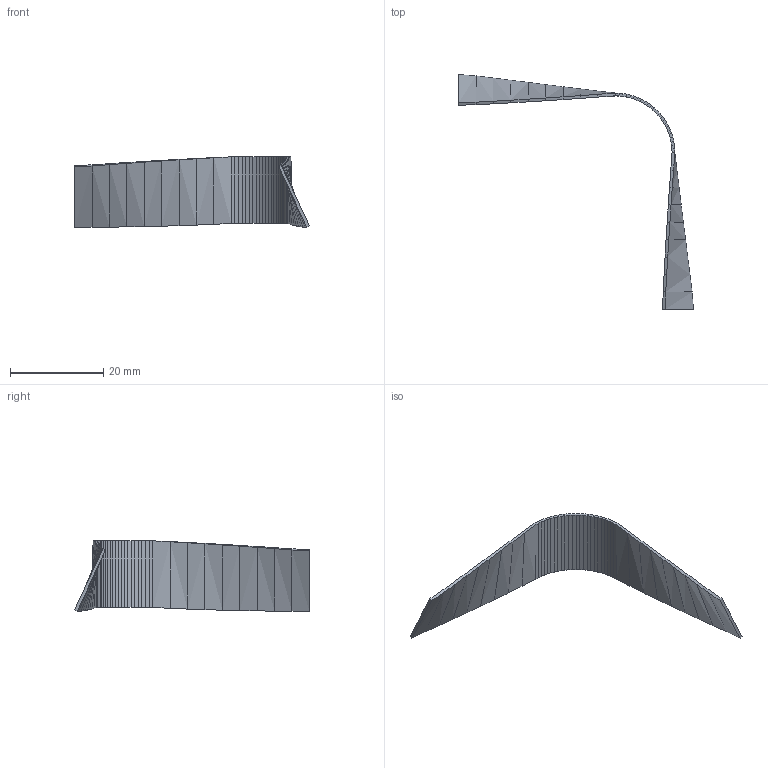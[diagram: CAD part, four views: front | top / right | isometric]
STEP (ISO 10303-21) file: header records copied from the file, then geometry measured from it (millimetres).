
FILE_DESCRIPTION(('Open CASCADE Model'),'2;1');
FILE_NAME('SOLID','2026-10-21T18:57:48',('Author'),('Open CASCADE'), 'Open CASCADE STEP processor 8.0','build123d','Unknown');
FILE_SCHEMA(('AUTOMOTIVE_DESIGN { 1 0 10303 214 1 1 1 1 }'));
Length unit declared in the file: millimetre
Products named in the file (2): SOLID
Assembly tree (1 placements, depth 2):
  SOLID
    SOLID
Bounding box: 50.38 x 50.38 x 15.09 mm (x, y, z)
Volume: 744.7 mm3; surface area: 2607.6 mm2
Topology: 1 solids, 1 shells, 170 faces, 340 edges, 172 vertices
Faces by surface type: bspline 120, plane 50
Entity records: 8276 total; most frequent: CARTESIAN_POINT 1988, DIRECTION 860, LINE 756, VECTOR 756, ORIENTED_EDGE 680, PCURVE 680, DEFINITIONAL_REPRESENTATION 680, EDGE_CURVE 340
